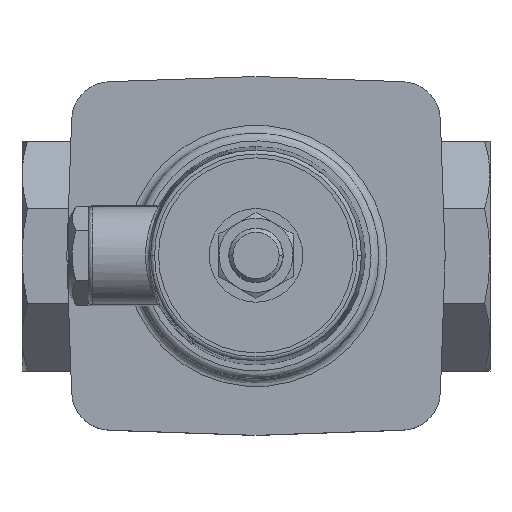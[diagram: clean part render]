
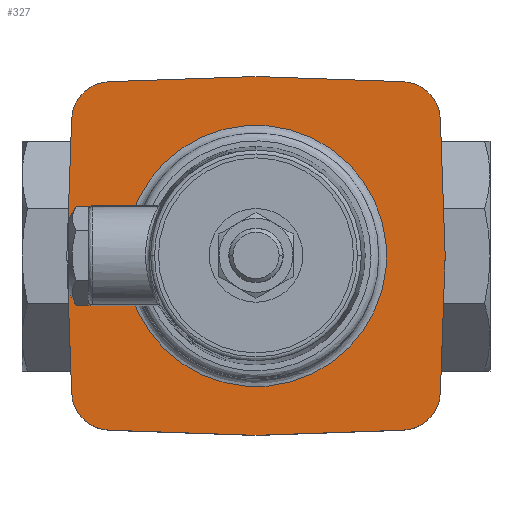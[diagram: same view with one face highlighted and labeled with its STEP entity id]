
A CAD part, top view. The second image highlights one B-rep face of the part: STEP entity #327.
In plain terms, the highlighted planar face has unit normal (0, 0, 1).
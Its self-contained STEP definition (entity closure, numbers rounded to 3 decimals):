
#327=ADVANCED_FACE('',(#2000),#1999,.T.);
#1999=PLANE('',#6055);
#2000=FACE_OUTER_BOUND('',#6056,.T.);
#6052=CARTESIAN_POINT('',(-58.186,-64.752,42.8));
#6053=DIRECTION('',(0.,0.,1.));
#6054=DIRECTION('',(1.,0.,0.));
#6055=AXIS2_PLACEMENT_3D('',#6052,#6053,#6054);
#6056=EDGE_LOOP('',(#8735,#8736,#8737,#8738,#8739,#8740,#8741,#8742,#8743,#8744,#8745,#8746,#8747,#8748,#8749));
#8735=ORIENTED_EDGE('',*,*,#10372,.T.);
#8736=ORIENTED_EDGE('',*,*,#10373,.T.);
#8737=ORIENTED_EDGE('',*,*,#10374,.T.);
#8738=ORIENTED_EDGE('',*,*,#10375,.T.);
#8739=ORIENTED_EDGE('',*,*,#10376,.T.);
#8740=ORIENTED_EDGE('',*,*,#10377,.T.);
#8741=ORIENTED_EDGE('',*,*,#10378,.T.);
#8742=ORIENTED_EDGE('',*,*,#10379,.T.);
#8743=ORIENTED_EDGE('',*,*,#10380,.T.);
#8744=ORIENTED_EDGE('',*,*,#10381,.T.);
#8745=ORIENTED_EDGE('',*,*,#10382,.T.);
#8746=ORIENTED_EDGE('',*,*,#10383,.T.);
#8747=ORIENTED_EDGE('',*,*,#10384,.T.);
#8748=ORIENTED_EDGE('',*,*,#10385,.T.);
#8749=ORIENTED_EDGE('',*,*,#10386,.T.);
#10372=EDGE_CURVE('',#13866,#13867,#13868,.T.);
#10373=EDGE_CURVE('',#13867,#13874,#13875,.T.);
#10374=EDGE_CURVE('',#13874,#13881,#13882,.T.);
#10375=EDGE_CURVE('',#13881,#13888,#13889,.T.);
#10376=EDGE_CURVE('',#13888,#13895,#13896,.T.);
#10377=EDGE_CURVE('',#13895,#13902,#13903,.T.);
#10378=EDGE_CURVE('',#13902,#13909,#13910,.T.);
#10379=EDGE_CURVE('',#13909,#13916,#13917,.T.);
#10380=EDGE_CURVE('',#13916,#13923,#13924,.T.);
#10381=EDGE_CURVE('',#13923,#13930,#13931,.T.);
#10382=EDGE_CURVE('',#13930,#13937,#13938,.T.);
#10383=EDGE_CURVE('',#13937,#13944,#13945,.T.);
#10384=EDGE_CURVE('',#13944,#13951,#13952,.T.);
#10385=EDGE_CURVE('',#13951,#13958,#13959,.T.);
#10386=EDGE_CURVE('',#13958,#13866,#13965,.T.);
#13866=VERTEX_POINT('',#19452);
#13867=VERTEX_POINT('',#19453);
#13868=LINE('',#19454,#19455);
#13874=VERTEX_POINT('',#19457);
#13875=LINE('',#19458,#19459);
#13881=VERTEX_POINT('',#19461);
#13882=CIRCLE('',#19465,33.5);
#13888=VERTEX_POINT('',#19466);
#13889=LINE('',#19467,#19468);
#13895=VERTEX_POINT('',#19470);
#13896=LINE('',#19471,#19472);
#13902=VERTEX_POINT('',#19474);
#13903=CIRCLE('',#19478,10.);
#13909=VERTEX_POINT('',#19479);
#13910=LINE('',#19480,#19481);
#13916=VERTEX_POINT('',#19483);
#13917=LINE('',#19484,#19485);
#13923=VERTEX_POINT('',#19487);
#13924=CIRCLE('',#19491,10.);
#13930=VERTEX_POINT('',#19492);
#13931=LINE('',#19493,#19494);
#13937=VERTEX_POINT('',#19496);
#13938=LINE('',#19497,#19498);
#13944=VERTEX_POINT('',#19500);
#13945=CIRCLE('',#19504,10.);
#13951=VERTEX_POINT('',#19505);
#13952=LINE('',#19506,#19507);
#13958=VERTEX_POINT('',#19509);
#13959=LINE('',#19510,#19511);
#13965=CIRCLE('',#19516,10.);
#19452=CARTESIAN_POINT('',(-47.276,35.041,42.8));
#19453=CARTESIAN_POINT('',(-48.186,9.,42.8));
#19454=CARTESIAN_POINT('',(-47.276,35.041,42.8));
#19455=VECTOR('',#19456,26.057);
#19456=DIRECTION('',(-0.035,-0.999,0.));
#19457=CARTESIAN_POINT('',(-32.268,9.,42.8));
#19458=CARTESIAN_POINT('',(-48.186,9.,42.8));
#19459=VECTOR('',#19460,15.917);
#19460=DIRECTION('',(1.,0.,0.));
#19461=CARTESIAN_POINT('',(-32.268,-9.,42.8));
#19462=CARTESIAN_POINT('',(0.,0.,42.8));
#19463=DIRECTION('',(0.,0.,-1.));
#19464=DIRECTION('',(-1.,0.,0.));
#19465=AXIS2_PLACEMENT_3D('',#19462,#19463,#19464);
#19466=CARTESIAN_POINT('',(-48.186,-9.,42.8));
#19467=CARTESIAN_POINT('',(-32.268,-9.,42.8));
#19468=VECTOR('',#19469,15.917);
#19469=DIRECTION('',(-1.,0.,0.));
#19470=CARTESIAN_POINT('',(-47.276,-35.041,42.8));
#19471=CARTESIAN_POINT('',(-48.186,-9.,42.8));
#19472=VECTOR('',#19473,26.057);
#19473=DIRECTION('',(0.035,-0.999,0.));
#19474=CARTESIAN_POINT('',(-37.631,-44.686,42.8));
#19475=CARTESIAN_POINT('',(-37.282,-34.692,42.8));
#19476=DIRECTION('',(0.,0.,1.));
#19477=DIRECTION('',(-1.,0.,0.));
#19478=AXIS2_PLACEMENT_3D('',#19475,#19476,#19477);
#19479=CARTESIAN_POINT('',(0.,-46.,42.8));
#19480=CARTESIAN_POINT('',(-37.631,-44.686,42.8));
#19481=VECTOR('',#19482,37.654);
#19482=DIRECTION('',(0.999,-0.035,0.));
#19483=CARTESIAN_POINT('',(37.631,-44.686,42.8));
#19484=CARTESIAN_POINT('',(0.,-46.,42.8));
#19485=VECTOR('',#19486,37.654);
#19486=DIRECTION('',(0.999,0.035,0.));
#19487=CARTESIAN_POINT('',(47.276,-35.041,42.8));
#19488=CARTESIAN_POINT('',(37.282,-34.692,42.8));
#19489=DIRECTION('',(0.,0.,1.));
#19490=DIRECTION('',(-1.,0.,0.));
#19491=AXIS2_PLACEMENT_3D('',#19488,#19489,#19490);
#19492=CARTESIAN_POINT('',(48.5,0.,42.8));
#19493=CARTESIAN_POINT('',(47.276,-35.041,42.8));
#19494=VECTOR('',#19495,35.062);
#19495=DIRECTION('',(0.035,0.999,0.));
#19496=CARTESIAN_POINT('',(47.276,35.041,42.8));
#19497=CARTESIAN_POINT('',(48.5,0.,42.8));
#19498=VECTOR('',#19499,35.062);
#19499=DIRECTION('',(-0.035,0.999,0.));
#19500=CARTESIAN_POINT('',(37.631,44.686,42.8));
#19501=CARTESIAN_POINT('',(37.282,34.692,42.8));
#19502=DIRECTION('',(0.,0.,1.));
#19503=DIRECTION('',(-1.,0.,0.));
#19504=AXIS2_PLACEMENT_3D('',#19501,#19502,#19503);
#19505=CARTESIAN_POINT('',(0.,46.,42.8));
#19506=CARTESIAN_POINT('',(37.631,44.686,42.8));
#19507=VECTOR('',#19508,37.654);
#19508=DIRECTION('',(-0.999,0.035,0.));
#19509=CARTESIAN_POINT('',(-37.631,44.686,42.8));
#19510=CARTESIAN_POINT('',(0.,46.,42.8));
#19511=VECTOR('',#19512,37.654);
#19512=DIRECTION('',(-0.999,-0.035,0.));
#19513=CARTESIAN_POINT('',(-37.282,34.692,42.8));
#19514=DIRECTION('',(0.,0.,1.));
#19515=DIRECTION('',(-1.,0.,0.));
#19516=AXIS2_PLACEMENT_3D('',#19513,#19514,#19515);
